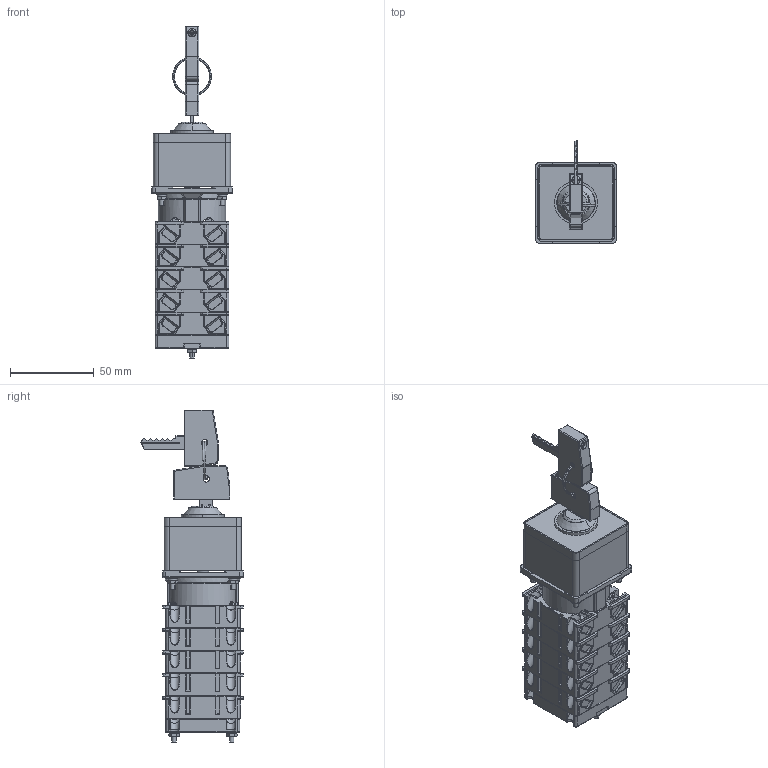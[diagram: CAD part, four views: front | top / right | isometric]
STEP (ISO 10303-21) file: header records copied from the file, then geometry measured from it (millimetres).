
FILE_DESCRIPTION (( 'STEP AP214' ), '1' );
FILE_NAME ('Ïåðåêëþ÷àòåëü 4G10-XXXX-U S5 5ê.STEP', '2022-11-25T13:30:50', ( '' ), ( '' ), 'SwSTEP 2.0', 'SolidWorks 2018', '' );
FILE_SCHEMA (( 'AUTOMOTIVE_DESIGN' ));
Length unit declared in the file: millimetre
Products named in the file (1): Ïåðåêëþ÷àòåëü 4G10-XXXX-U S5 5ê
Bounding box: 48 x 60.94 x 198 mm (x, y, z)
Volume: 240947.8 mm3; surface area: 105831.7 mm2
Topology: 53 solids, 93 shells, 5352 faces, 13646 edges, 8607 vertices
Faces by surface type: plane 2884, cylinder 1783, torus 302, cone 208, bspline 112, sphere 63
Entity records: 241708 total; most frequent: CARTESIAN_POINT 54730, ORIENTED_EDGE 27168, DIRECTION 26014, EDGE_CURVE 13584, LINE 8788, VECTOR 8788, AXIS2_PLACEMENT_3D 8613, VERTEX_POINT 8595
